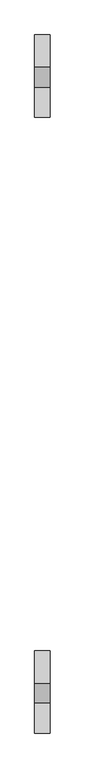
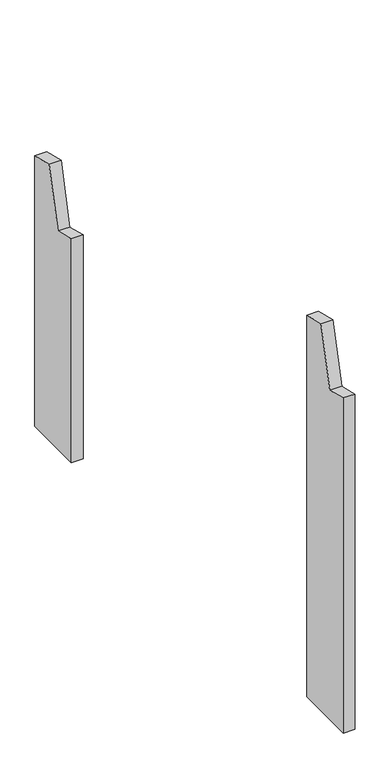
"""IFC4 building model written with IfcOpenShell, lengths in millimetres: proxy geometry, Modelos genéricos 31 : Modelos genéricos 5."""

from ifc_helpers import new_model, si_unit, frame, origin, place, context, project, spatial, polyline, outline, extrude, source, transform, mapped, element, save


def generic_models_3abef84c(model_context):
    return source(origin(), model_context, "Body", "SweptSolid", [
        extrude(outline(polyline([(3268.6238165, 3000.0), (3268.6238165, 3898.0915281), (3326.8415601, 3883.5762143), (3365.5490634, 4038.8235305), (3428.6238165, 4023.0972283), (3428.6238165, 3000.0), (3268.6238165, 3000.0)])), frame((-8966.5527533, 0.0, 0.0), z_axis=(1.0, 0.0, 0.0), x_axis=(0.0, 1.0, 0.0)), (0.0, 0.0, 1.0), 30.0),
        extrude(outline(polyline([(4463.6238165, 3000.0), (4463.6238165, 3600.1445647), (4521.8415601, 3585.6292509), (4560.5490634, 3740.8765671), (4623.6238165, 3725.1502649), (4623.6238165, 3000.0), (4463.6238165, 3000.0)])), frame((-8966.5527533, 0.0, 0.0), z_axis=(1.0, 0.0, 0.0), x_axis=(0.0, 1.0, 0.0)), (0.0, 0.0, 1.0), 30.0),
    ])


if __name__ == "__main__":
    model = new_model("IFC4")
    model_context = context("Model", 3, world=origin())
    ifc_project = project(units=[si_unit("LENGTHUNIT", "METRE", prefix="MILLI")], contexts=[model_context])
    site = spatial("IfcSite", under=ifc_project)
    building = spatial("IfcBuilding", under=site)
    placement = place(None, origin())
    generic_models_shape = generic_models_3abef84c(model_context)
    element("IfcBuildingElementProxy", 1, Name="Modelos genéricos 31 : Modelos genéricos 5", ObjectType="Modelos genéricos 31 : Modelos genéricos 5", at=placement, inside=building, context=model_context, shape_type="MappedRepresentation", body=[
        mapped(generic_models_shape, transform((0.0, 0.0, 0.0), x_axis=(1.0, 0.0, 0.0), y_axis=(0.0, 1.0, 0.0), z_axis=(0.0, 0.0, 1.0))),
    ])
    save(model, "model.ifc")
